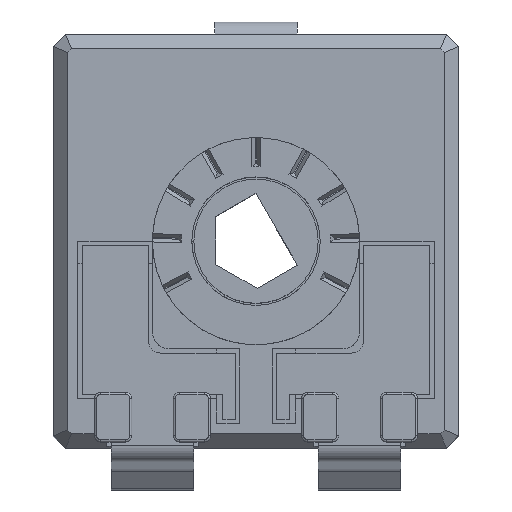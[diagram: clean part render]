
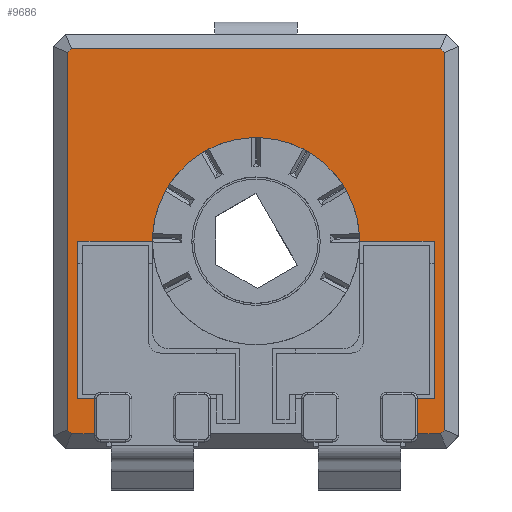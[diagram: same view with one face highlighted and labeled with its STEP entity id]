
A CAD part, top view. The second image highlights one B-rep face of the part: STEP entity #9686.
In plain terms, the highlighted planar face has unit normal (0, 0, 1).
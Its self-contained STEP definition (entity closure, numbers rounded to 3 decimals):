
#314=CIRCLE('',#10350,2.5);
#572=FACE_OUTER_BOUND('',#1075,.T.);
#1075=EDGE_LOOP('',(#6874,#6875,#6876,#6877,#6878,#6879,#6880,#6881,#6882,
#6883,#6884,#6885,#6886,#6887,#6888,#6889,#6890,#6891));
#1661=LINE('',#14145,#2803);
#1714=LINE('',#14361,#2856);
#1769=LINE('',#14481,#2911);
#1791=LINE('',#14525,#2933);
#1792=LINE('',#14527,#2934);
#1793=LINE('',#14529,#2935);
#1794=LINE('',#14531,#2936);
#1795=LINE('',#14533,#2937);
#1796=LINE('',#14535,#2938);
#1797=LINE('',#14537,#2939);
#1798=LINE('',#14539,#2940);
#1799=LINE('',#14540,#2941);
#1800=LINE('',#14542,#2942);
#1801=LINE('',#14544,#2943);
#1802=LINE('',#14546,#2944);
#1803=LINE('',#14550,#2945);
#1804=LINE('',#14551,#2946);
#2803=VECTOR('',#11363,10.);
#2856=VECTOR('',#11610,10.);
#2911=VECTOR('',#11725,10.);
#2933=VECTOR('',#11761,10.);
#2934=VECTOR('',#11762,10.);
#2935=VECTOR('',#11763,10.);
#2936=VECTOR('',#11764,10.);
#2937=VECTOR('',#11765,10.);
#2938=VECTOR('',#11766,10.);
#2939=VECTOR('',#11767,10.);
#2940=VECTOR('',#11768,10.);
#2941=VECTOR('',#11769,10.);
#2942=VECTOR('',#11770,10.);
#2943=VECTOR('',#11771,10.);
#2944=VECTOR('',#11772,10.);
#2945=VECTOR('',#11775,10.);
#2946=VECTOR('',#11776,10.);
#3963=VERTEX_POINT('',#14142);
#3964=VERTEX_POINT('',#14144);
#4029=VERTEX_POINT('',#14358);
#4030=VERTEX_POINT('',#14360);
#4065=VERTEX_POINT('',#14480);
#4080=VERTEX_POINT('',#14524);
#4081=VERTEX_POINT('',#14526);
#4082=VERTEX_POINT('',#14528);
#4083=VERTEX_POINT('',#14530);
#4084=VERTEX_POINT('',#14532);
#4085=VERTEX_POINT('',#14534);
#4086=VERTEX_POINT('',#14536);
#4087=VERTEX_POINT('',#14538);
#4088=VERTEX_POINT('',#14541);
#4089=VERTEX_POINT('',#14543);
#4090=VERTEX_POINT('',#14545);
#4091=VERTEX_POINT('',#14547);
#4092=VERTEX_POINT('',#14549);
#4945=EDGE_CURVE('',#3964,#3963,#1661,.T.);
#5053=EDGE_CURVE('',#4030,#4029,#1714,.T.);
#5115=EDGE_CURVE('',#4065,#3964,#1769,.T.);
#5138=EDGE_CURVE('',#4080,#3963,#1791,.T.);
#5139=EDGE_CURVE('',#4081,#4080,#1792,.T.);
#5140=EDGE_CURVE('',#4082,#4081,#1793,.T.);
#5141=EDGE_CURVE('',#4083,#4082,#1794,.T.);
#5142=EDGE_CURVE('',#4084,#4083,#1795,.T.);
#5143=EDGE_CURVE('',#4085,#4084,#1796,.T.);
#5144=EDGE_CURVE('',#4086,#4085,#1797,.T.);
#5145=EDGE_CURVE('',#4087,#4086,#1798,.T.);
#5146=EDGE_CURVE('',#4030,#4087,#1799,.T.);
#5147=EDGE_CURVE('',#4029,#4088,#1800,.T.);
#5148=EDGE_CURVE('',#4088,#4089,#1801,.T.);
#5149=EDGE_CURVE('',#4089,#4090,#1802,.T.);
#5150=EDGE_CURVE('',#4090,#4091,#314,.T.);
#5151=EDGE_CURVE('',#4091,#4092,#1803,.T.);
#5152=EDGE_CURVE('',#4092,#4065,#1804,.T.);
#6874=ORIENTED_EDGE('',*,*,#4945,.T.);
#6875=ORIENTED_EDGE('',*,*,#5138,.F.);
#6876=ORIENTED_EDGE('',*,*,#5139,.F.);
#6877=ORIENTED_EDGE('',*,*,#5140,.F.);
#6878=ORIENTED_EDGE('',*,*,#5141,.F.);
#6879=ORIENTED_EDGE('',*,*,#5142,.F.);
#6880=ORIENTED_EDGE('',*,*,#5143,.F.);
#6881=ORIENTED_EDGE('',*,*,#5144,.F.);
#6882=ORIENTED_EDGE('',*,*,#5145,.F.);
#6883=ORIENTED_EDGE('',*,*,#5146,.F.);
#6884=ORIENTED_EDGE('',*,*,#5053,.T.);
#6885=ORIENTED_EDGE('',*,*,#5147,.T.);
#6886=ORIENTED_EDGE('',*,*,#5148,.T.);
#6887=ORIENTED_EDGE('',*,*,#5149,.T.);
#6888=ORIENTED_EDGE('',*,*,#5150,.T.);
#6889=ORIENTED_EDGE('',*,*,#5151,.T.);
#6890=ORIENTED_EDGE('',*,*,#5152,.T.);
#6891=ORIENTED_EDGE('',*,*,#5115,.T.);
#9031=PLANE('',#10349);
#9686=ADVANCED_FACE('',(#572),#9031,.T.);
#10349=AXIS2_PLACEMENT_3D('',#14523,#11759,#11760);
#10350=AXIS2_PLACEMENT_3D('',#14548,#11773,#11774);
#11363=DIRECTION('',(0.,-1.,0.));
#11610=DIRECTION('',(0.,1.,0.));
#11725=DIRECTION('',(-1.,0.,0.));
#11759=DIRECTION('center_axis',(0.,0.,1.));
#11760=DIRECTION('ref_axis',(1.,0.,0.));
#11761=DIRECTION('',(-1.,0.,0.));
#11762=DIRECTION('',(-0.707,-0.707,0.));
#11763=DIRECTION('',(0.,-1.,0.));
#11764=DIRECTION('',(0.707,-0.707,0.));
#11765=DIRECTION('',(1.,0.,0.));
#11766=DIRECTION('',(0.707,0.707,0.));
#11767=DIRECTION('',(0.,1.,0.));
#11768=DIRECTION('',(-0.707,0.707,0.));
#11769=DIRECTION('',(-1.,0.,0.));
#11770=DIRECTION('',(-1.,0.,0.));
#11771=DIRECTION('',(0.,1.,0.));
#11772=DIRECTION('',(1.,0.,0.));
#11773=DIRECTION('center_axis',(0.,0.,-1.));
#11774=DIRECTION('ref_axis',(-1.,0.,0.));
#11775=DIRECTION('',(1.,0.,0.));
#11776=DIRECTION('',(0.,-1.,0.));
#14142=CARTESIAN_POINT('',(-22.548,-17.64,0.));
#14144=CARTESIAN_POINT('',(-22.548,-16.79,0.));
#14145=CARTESIAN_POINT('',(-22.548,-15.415,0.));
#14358=CARTESIAN_POINT('',(-30.348,-16.79,0.));
#14360=CARTESIAN_POINT('',(-30.348,-17.64,0.));
#14361=CARTESIAN_POINT('',(-30.348,-14.815,0.));
#14480=CARTESIAN_POINT('',(-22.148,-16.79,0.));
#14481=CARTESIAN_POINT('',(-24.648,-16.79,0.));
#14523=CARTESIAN_POINT('Origin',(-26.448,-12.99,0.));
#14524=CARTESIAN_POINT('',(-21.993,-17.64,0.));
#14525=CARTESIAN_POINT('',(-28.748,-17.64,0.));
#14526=CARTESIAN_POINT('',(-21.898,-17.545,0.));
#14527=CARTESIAN_POINT('',(-21.995,-17.643,0.));
#14528=CARTESIAN_POINT('',(-21.898,-8.435,0.));
#14529=CARTESIAN_POINT('',(-21.898,-15.34,0.));
#14530=CARTESIAN_POINT('',(-21.993,-8.34,0.));
#14531=CARTESIAN_POINT('',(-21.845,-8.488,0.));
#14532=CARTESIAN_POINT('',(-30.903,-8.34,0.));
#14533=CARTESIAN_POINT('',(-24.148,-8.34,0.));
#14534=CARTESIAN_POINT('',(-30.998,-8.435,0.));
#14535=CARTESIAN_POINT('',(-30.9,-8.338,0.));
#14536=CARTESIAN_POINT('',(-30.998,-17.545,0.));
#14537=CARTESIAN_POINT('',(-30.998,-10.64,0.));
#14538=CARTESIAN_POINT('',(-30.903,-17.64,0.));
#14539=CARTESIAN_POINT('',(-31.05,-17.493,0.));
#14540=CARTESIAN_POINT('',(-28.748,-17.64,0.));
#14541=CARTESIAN_POINT('',(-30.748,-16.79,0.));
#14542=CARTESIAN_POINT('',(-28.598,-16.79,0.));
#14543=CARTESIAN_POINT('',(-30.748,-12.99,0.));
#14544=CARTESIAN_POINT('',(-30.748,-12.99,0.));
#14545=CARTESIAN_POINT('',(-28.948,-12.99,0.));
#14546=CARTESIAN_POINT('',(-27.698,-12.99,0.));
#14547=CARTESIAN_POINT('',(-23.948,-12.99,0.));
#14548=CARTESIAN_POINT('Origin',(-26.448,-12.99,0.));
#14549=CARTESIAN_POINT('',(-22.148,-12.99,0.));
#14550=CARTESIAN_POINT('',(-24.298,-12.99,0.));
#14551=CARTESIAN_POINT('',(-22.148,-14.89,0.));
